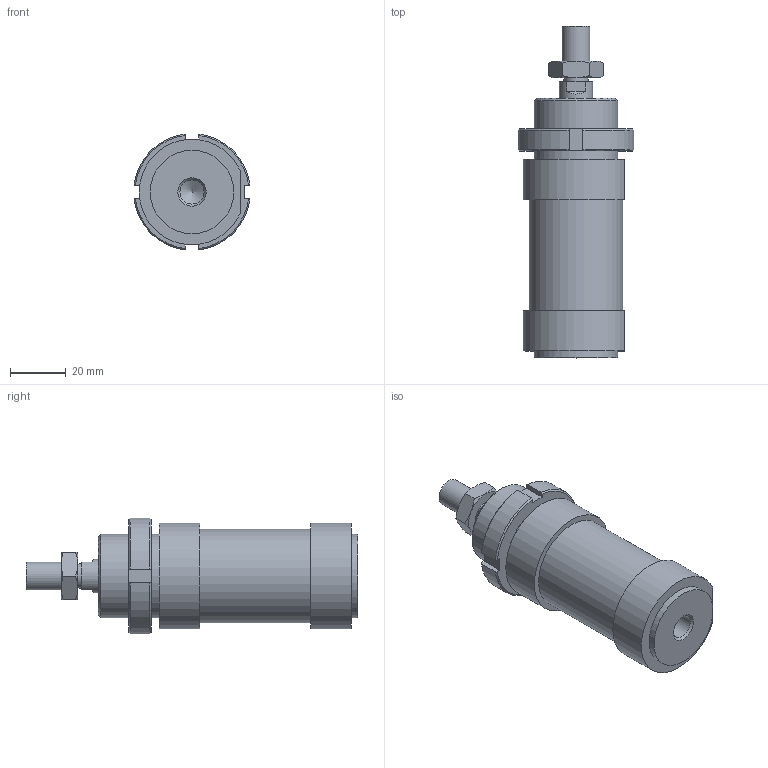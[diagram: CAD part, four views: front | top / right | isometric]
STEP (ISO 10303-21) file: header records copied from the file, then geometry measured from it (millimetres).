
FILE_DESCRIPTION((''),'2;1');
FILE_NAME('I:\Area Tecnica\Disegni\VARIE-3D\Componenti\1280\1281_##_####_#\1281_32_0000.iam.stp','2009-06-04T09:40:49',(''),(''),'Autodesk Inventor 2010','Autodesk Inventor 2010','');
FILE_SCHEMA(('AUTOMOTIVE_DESIGN { 1 0 10303 214 1 1 1 1 }'));
Length unit declared in the file: millimetre
Products named in the file (5): 1281_32_0000; C1281_32_0; S1280_32_0; 1200_32_05; 1200_32_06
Assembly tree (4 placements, depth 2):
  1281_32_0000
    C1281_32_0
    S1280_32_0
    1200_32_05
    1200_32_06
Bounding box: 41.7 x 119.5 x 41.7 mm (x, y, z)
Volume: 92278.4 mm3; surface area: 21268.6 mm2
Topology: 4 solids, 4 shells, 88 faces, 195 edges, 124 vertices
Faces by surface type: plane 39, cone 22, bspline 14, cylinder 13
Full cylindrical faces by diameter (mm): 8.8 x1, 10 x1, 12 x2, 30 x2, 33.6 x1
Entity records: 2663 total; most frequent: CARTESIAN_POINT 675, DIRECTION 362, ORIENTED_EDGE 338, EDGE_CURVE 169, AXIS2_PLACEMENT_3D 150, EDGE_LOOP 122, VERTEX_POINT 119, STYLED_ITEM 92
